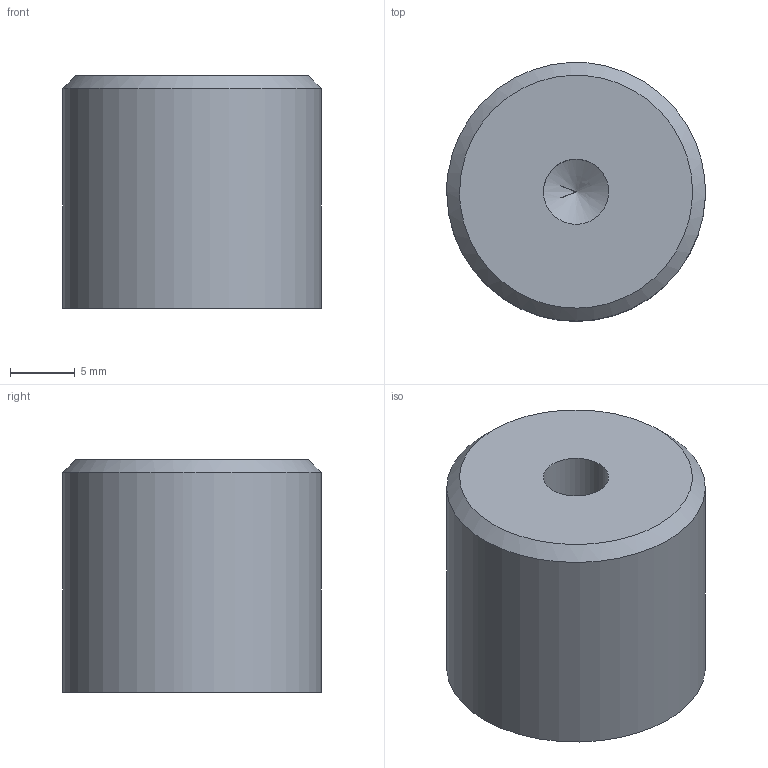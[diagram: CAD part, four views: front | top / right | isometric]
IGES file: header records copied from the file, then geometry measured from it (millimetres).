
Global section: file name: PMH-1-20x18; native system: unknown; preprocessor: unknown; author: unknown; organization: unknown; date: 20221128.164907; units: millimetre
Bounding box: 19.99 x 19.99 x 18 mm (x, y, z)
Volume: 5480.4 mm3; surface area: 1841.9 mm2
Topology: 1 solids, 1 shells, 10 faces, 18 edges, 12 vertices
Faces by surface type: bspline 10
